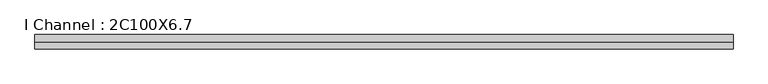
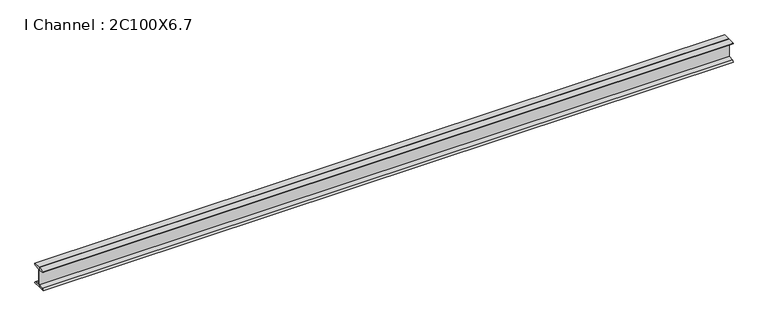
"""IFC4 building model written with IfcOpenShell, lengths in millimetres: beam geometry, I Channel : 2C100X6.7."""

from ifc_helpers import new_model, si_unit, point, frame, frame_2d, origin, place, context, project, spatial, polyline, circle_curve, trimmed, segment, composite_curve, outline, extrude, source, transform, mapped, element, save


def i_channel_2c100x6_7_0b379793(model_context):
    return source(origin(), model_context, "Body", "SweptSolid", [
        extrude(outline(composite_curve([segment(polyline([(0.0, 48.5), (34.0, 48.5)]), True, "CONTINUOUS"), segment(trimmed(circle_curve(frame_2d((26.5, 48.5)), 7.5), [point((34.0, 48.5))], [point((26.5, 41.0))], False, "CARTESIAN"), True, "CONTINUOUS"), segment(polyline([(26.5, 41.0), (3.2, 37.3096425), (3.2, -37.3096425), (26.5, -41.0)]), True, "CONTINUOUS"), segment(trimmed(circle_curve(frame_2d((26.5, -48.5)), 7.5), [point((26.5, -41.0))], [point((34.0, -48.5))], False, "CARTESIAN"), True, "CONTINUOUS"), segment(polyline([(34.0, -48.5), (0.0, -48.5), (0.0, 48.5)]), True, "CONTINUOUS")], self_intersect=False)), frame((-702.1710933, 0.0, 0.0), z_axis=(1.0, 0.0, 0.0), x_axis=(0.0, 1.0, 0.0)), (0.0, 0.0, 1.0), 3303.7000023),
        extrude(outline(composite_curve([segment(polyline([(0.0, 48.5), (0.0, -48.5), (-34.0, -48.5)]), True, "CONTINUOUS"), segment(trimmed(circle_curve(frame_2d((-26.5, -48.5)), 7.5), [point((-34.0, -48.5))], [point((-26.5, -41.0))], False, "CARTESIAN"), True, "CONTINUOUS"), segment(polyline([(-26.5, -41.0), (-3.2, -37.3096425), (-3.2, 37.3096425), (-26.5, 41.0)]), True, "CONTINUOUS"), segment(trimmed(circle_curve(frame_2d((-26.5, 48.5)), 7.5), [point((-26.5, 41.0))], [point((-34.0, 48.5))], False, "CARTESIAN"), True, "CONTINUOUS"), segment(polyline([(-34.0, 48.5), (0.0, 48.5)]), True, "CONTINUOUS")], self_intersect=False)), frame((-702.1710933, 0.0, 0.0), z_axis=(1.0, 0.0, 0.0), x_axis=(0.0, 1.0, 0.0)), (0.0, 0.0, 1.0), 3303.7000023),
    ])


if __name__ == "__main__":
    model = new_model("IFC4")
    model_context = context("Model", 3, world=origin())
    ifc_project = project(units=[si_unit("LENGTHUNIT", "METRE", prefix="MILLI")], contexts=[model_context])
    site = spatial("IfcSite", under=ifc_project)
    building = spatial("IfcBuilding", under=site)
    placement = place(None, origin())
    i_channel_2c100x6_7_shape = i_channel_2c100x6_7_0b379793(model_context)
    element("IfcBeam", 1, ObjectType="I Channel : 2C100X6.7", at=placement, inside=building, context=model_context, shape_type="MappedRepresentation", body=[
        mapped(i_channel_2c100x6_7_shape, transform((0.0, 0.0, 0.0), x_axis=(1.0, 0.0, 0.0), y_axis=(0.0, 1.0, 0.0), z_axis=(0.0, 0.0, 1.0))),
    ])
    save(model, "model.ifc")
